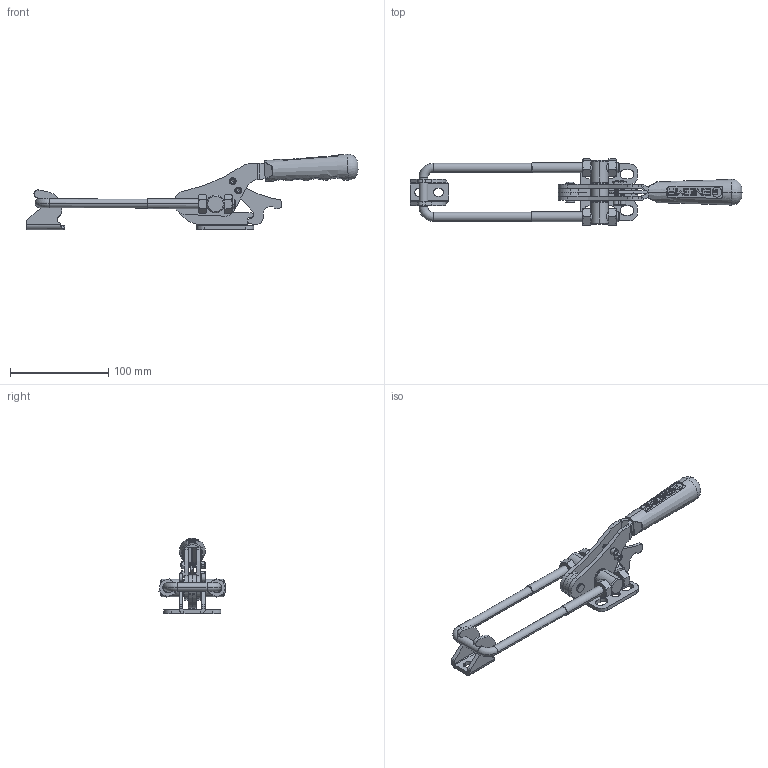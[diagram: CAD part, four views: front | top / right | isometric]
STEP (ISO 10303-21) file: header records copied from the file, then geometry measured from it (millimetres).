
FILE_DESCRIPTION (( 'STEP AP203' ), '1' );
FILE_NAME ('13010_Y_K.STEP', '2022-11-30T09:05:00', ( '' ), ( '' ), 'SwSTEP 2.0', 'SolidWorks 2023', '' );
FILE_SCHEMA (( 'CONFIG_CONTROL_DESIGN' ));
Length unit declared in the file: millimetre
Products named in the file (14): Mirror13010_H.KOLU_2022_30.11.2022_Varsayılan; 2022_13108_13110_Y_GÖVDE; M10x90_U_KANCA_Varsayılan; 13010_H.KOLU_2022_30.11.2022_Varsayılan; 6x21_PERÇİN_Varsayılan; M10_S(SOMUN)_Varsayılan; 13108_KİLİT_MEKANİZMASI; 13110_OTOMAT_Varsayılan; M8-M10_REV1_DefaultSM-FLAT-PATTERN; S_M4x20 Imbus Civata; C95_Yeni_Tutamak_Varsayılan; 13010_Y_K; Mirror2022_13108_13110_Y_GÖVDE; M4_S
Assembly tree (18 placements, depth 2):
  13010_Y_K
    2022_13108_13110_Y_GÖVDE
    13110_OTOMAT_Varsayılan
    Mirror2022_13108_13110_Y_GÖVDE
    M10x90_U_KANCA_Varsayılan
    M8-M10_REV1_DefaultSM-FLAT-PATTERN
    C95_Yeni_Tutamak_Varsayılan
    6x21_PERÇİN_Varsayılan
    S_M4x20 Imbus Civata  x2
    M10_S(SOMUN)_Varsayılan  x4
    M4_S  x2
    13108_KİLİT_MEKANİZMASI
    13010_H.KOLU_2022_30.11.2022_Varsayılan
    Mirror13010_H.KOLU_2022_30.11.2022_Varsayılan
Bounding box: 338.48 x 67.41 x 76.85 mm (x, y, z)
Volume: 144292.3 mm3; surface area: 75776.5 mm2
Topology: 16 solids, 22 shells, 853 faces, 2220 edges, 1424 vertices
Faces by surface type: plane 352, cylinder 317, cone 110, bspline 38, torus 34, sphere 2
Full cylindrical faces by diameter (mm): 4.109 x2
Entity records: 39227 total; most frequent: CARTESIAN_POINT 21706, ORIENTED_EDGE 3419, DIRECTION 3184, EDGE_CURVE 1714, AXIS2_PLACEMENT_3D 1128, VERTEX_POINT 1101, VECTOR 928, LINE 928
